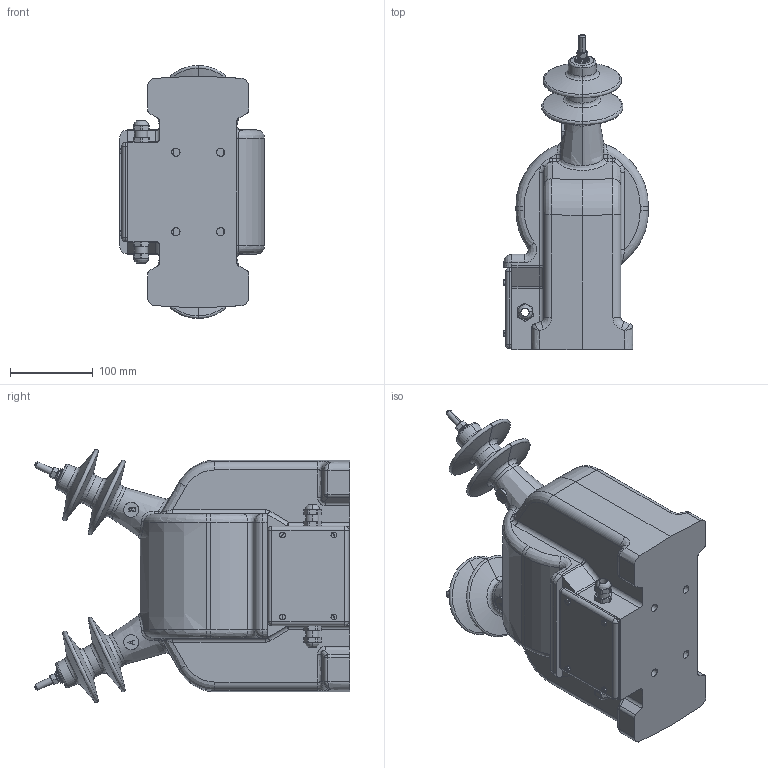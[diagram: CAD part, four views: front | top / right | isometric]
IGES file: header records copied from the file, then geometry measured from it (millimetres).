
Start section: IGES file generated from Kompas f.0 for Windows drawing by the IGES translator from Ascon Ltd., translator version IGESOUT-5.1.
Global section: file name: W:\3D_ìîäåëè\ÐÅÅÑÒÐ 3Ä ÌÎÄÅËÅÉ\266 ÎË-ÍÒÇ-0,63-6(10)-IV ÓÕË1, Ò1\ÎË-ÍÒÇ-0,63-6(10)-IV.igs; native system: Kompas( 32 bit ) for Windows; preprocessor: 1.0; author:   ; organization: Äîì; date: -17790727:105703; units: millimetre
Bounding box: 175.1 x 380.6 x 305.48 mm (x, y, z)
Volume: 4783702.3 mm3; surface area: 560138.9 mm2
Topology: 14 solids, 14 shells, 690 faces, 1675 edges, 1018 vertices
Faces by surface type: revolution 424, bspline 266
